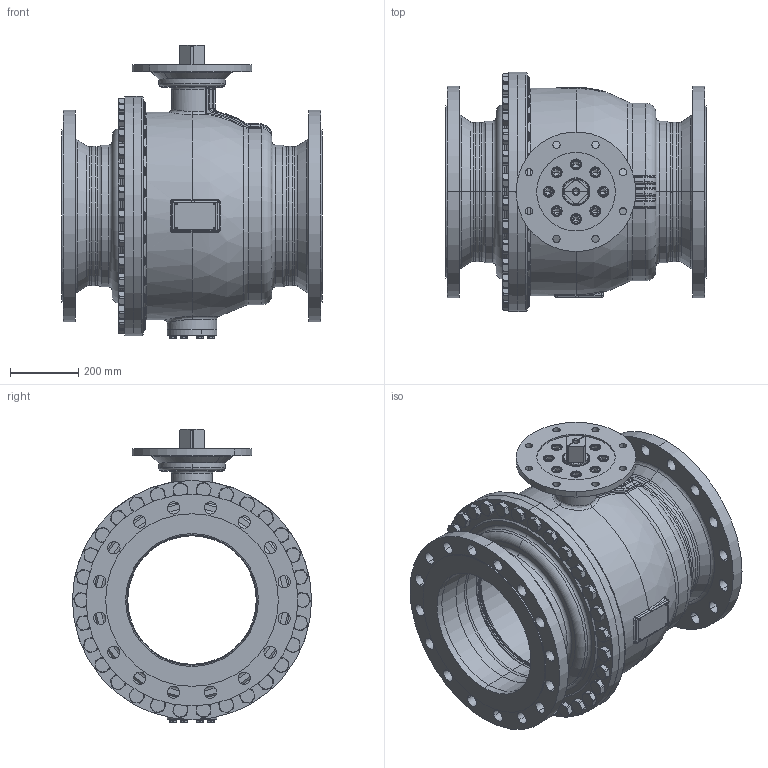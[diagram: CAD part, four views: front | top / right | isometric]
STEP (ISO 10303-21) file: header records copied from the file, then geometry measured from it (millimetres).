
FILE_DESCRIPTION((''),'2;1');
FILE_NAME('KHI-F_400_PN025-F30-4_SW0001','2026-02-05T16:26:04',('fischerkl'),('KLINGER'),'CREO PARAMETRIC BY PTC INC, 2023014','CREO PARAMETRIC BY PTC INC, 2023014','');
FILE_SCHEMA(('CONFIG_CONTROL_DESIGN'));
Products named in the file (1): KHI-F_400_PN025-F30-4_SW0001
Bounding box: 762 x 700 x 858.3 mm (x, y, z)
Volume: 58016069.7 mm3; surface area: 7016971 mm2
Topology: 1 solids, 4 shells, 3548 faces, 8934 edges, 5577 vertices
Faces by surface type: plane 1754, cylinder 849, cone 508, torus 307, bspline 99, sphere 31
Entity records: 151905 total; most frequent: CARTESIAN_POINT 67490, ORIENTED_EDGE 17816, DIRECTION 17489, EDGE_CURVE 8908, AXIS2_PLACEMENT_3D 6715, VERTEX_POINT 5577, VECTOR 4059, LINE 4059
